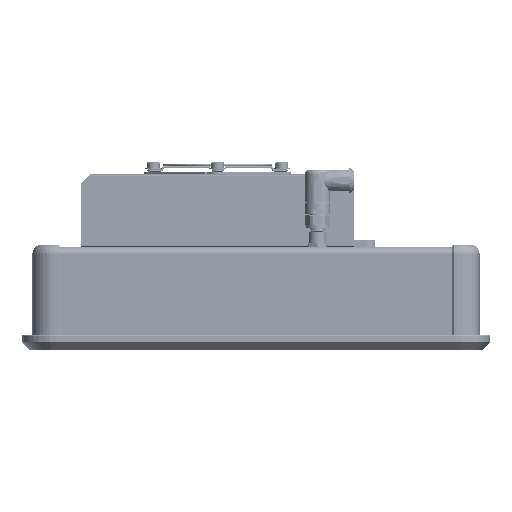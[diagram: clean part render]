
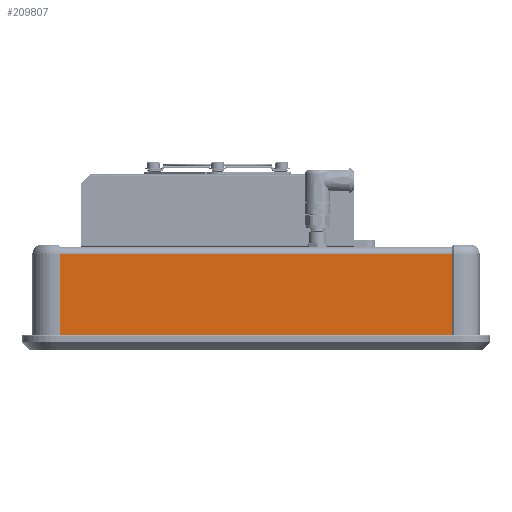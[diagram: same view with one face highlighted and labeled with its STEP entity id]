
A CAD part, left-side view. The second image highlights one B-rep face of the part: STEP entity #209807.
In plain terms, the highlighted planar face has unit normal (-1, 0, 0).
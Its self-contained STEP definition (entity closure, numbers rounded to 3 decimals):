
#8835=PLANE('',#222927);
#17916=FACE_OUTER_BOUND('',#29308,.T.);
#29308=EDGE_LOOP('',(#174732,#174733,#174734,#174735));
#57254=LINE('',#343372,#78153);
#57375=LINE('',#343776,#78274);
#57401=LINE('',#343845,#78300);
#57402=LINE('',#343847,#78301);
#78153=VECTOR('',#263653,10.);
#78274=VECTOR('',#264016,10.);
#78300=VECTOR('',#264098,10.);
#78301=VECTOR('',#264101,10.);
#96593=VERTEX_POINT('',#343370);
#96594=VERTEX_POINT('',#343371);
#96709=VERTEX_POINT('',#343774);
#96710=VERTEX_POINT('',#343775);
#123342=EDGE_CURVE('',#96593,#96594,#57254,.T.);
#123524=EDGE_CURVE('',#96709,#96710,#57375,.T.);
#123560=EDGE_CURVE('',#96710,#96593,#57401,.T.);
#123561=EDGE_CURVE('',#96709,#96594,#57402,.T.);
#174732=ORIENTED_EDGE('',*,*,#123342,.T.);
#174733=ORIENTED_EDGE('',*,*,#123561,.F.);
#174734=ORIENTED_EDGE('',*,*,#123524,.T.);
#174735=ORIENTED_EDGE('',*,*,#123560,.T.);
#209807=ADVANCED_FACE('',(#17916),#8835,.T.);
#222927=AXIS2_PLACEMENT_3D('',#343846,#264099,#264100);
#263653=DIRECTION('',(0.,0.,-1.));
#264016=DIRECTION('',(0.,0.,1.));
#264098=DIRECTION('',(0.,1.,0.));
#264099=DIRECTION('center_axis',(-1.,0.,0.));
#264100=DIRECTION('ref_axis',(0.,0.,
-1.));
#264101=DIRECTION('',(0.,1.,0.));
#343370=CARTESIAN_POINT('',(-195.45,107.9,50.6));
#343371=CARTESIAN_POINT('',(-195.45,107.9,5.6));
#343372=CARTESIAN_POINT('',(-195.45,107.9,18.026));
#343774=CARTESIAN_POINT('',(-195.45,-107.9,5.6));
#343775=CARTESIAN_POINT('',(-195.45,-107.9,50.6));
#343776=CARTESIAN_POINT('',(-195.45,-107.9,18.026));
#343845=CARTESIAN_POINT('',(-195.45,0.,50.6));
#343846=CARTESIAN_POINT('Origin',(-195.45,0.,
30.452));
#343847=CARTESIAN_POINT('',(-195.45,-118.486,5.6));
